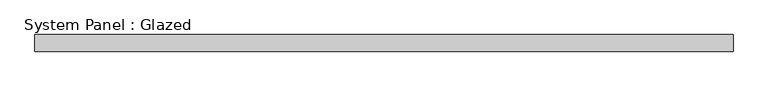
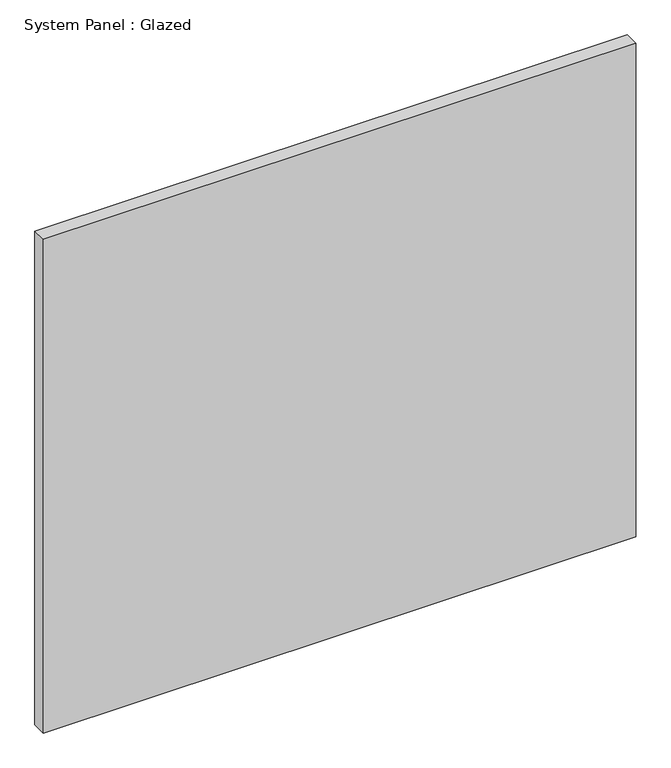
"""IFC4 building model written with IfcOpenShell, lengths in millimetres: plate geometry, System Panel : Glazed."""

from ifc_helpers import new_model, si_unit, origin, origin_with_axes, place, context, project, spatial, polyline, outline, extrude, source, transform, mapped, element, save


def system_panel_glazed_ef3b6359(model_context):
    return source(origin(), model_context, "Body", "SweptSolid", [
        extrude(outline(polyline([(518.8620624, 19.05), (-518.8620624, 19.05), (-518.8620624, 44.45), (518.8620624, 44.45), (518.8620624, 19.05)])), origin_with_axes(), (0.0, 0.0, 1.0), 914.4),
    ])


if __name__ == "__main__":
    model = new_model("IFC4")
    model_context = context("Model", 3, world=origin())
    ifc_project = project(units=[si_unit("LENGTHUNIT", "METRE", prefix="MILLI")], contexts=[model_context])
    site = spatial("IfcSite", under=ifc_project)
    building = spatial("IfcBuilding", under=site)
    placement = place(None, origin())
    system_panel_glazed_shape = system_panel_glazed_ef3b6359(model_context)
    element("IfcPlate", 1, ObjectType="System Panel : Glazed", at=placement, inside=building, context=model_context, shape_type="MappedRepresentation", body=[
        mapped(system_panel_glazed_shape, transform((0.0, 0.0, 0.0), x_axis=(1.0, 0.0, 0.0), y_axis=(0.0, 1.0, 0.0), z_axis=(0.0, 0.0, 1.0))),
    ])
    save(model, "model.ifc")
